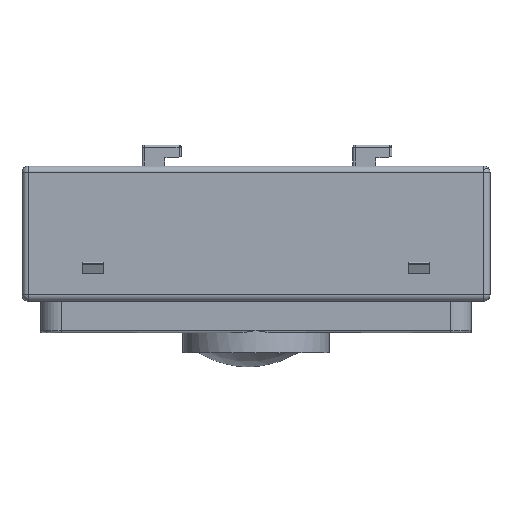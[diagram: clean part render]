
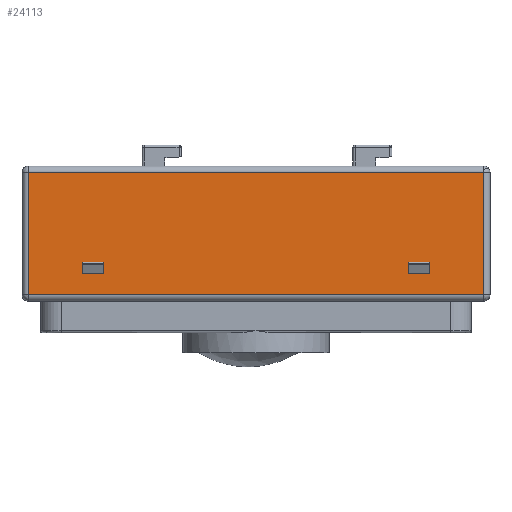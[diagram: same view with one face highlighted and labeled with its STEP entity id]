
A CAD part, top view. The second image highlights one B-rep face of the part: STEP entity #24113.
In plain terms, the highlighted planar face has unit normal (0, 0, 1).
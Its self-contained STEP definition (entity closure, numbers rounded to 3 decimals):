
#13570=DIRECTION('',(0.,1.,0.));
#13571=VECTOR('',#13570,11.6);
#13572=CARTESIAN_POINT('',(-21.6,-12.2,8.2));
#13573=LINE('',#13572,#13571);
#13928=DIRECTION('',(0.,-1.,0.));
#13929=VECTOR('',#13928,11.6);
#13930=CARTESIAN_POINT('',(21.6,-0.6,8.2));
#13931=LINE('',#13930,#13929);
#13966=DIRECTION('',(-1.,0.,0.));
#13967=VECTOR('',#13966,43.2);
#13968=CARTESIAN_POINT('',(21.6,-12.2,8.2));
#13969=LINE('',#13968,#13967);
#13980=DIRECTION('',(1.,0.,0.));
#13981=VECTOR('',#13980,2.);
#13982=CARTESIAN_POINT('',(14.5,-9.1,8.2));
#13983=LINE('',#13982,#13981);
#13987=DIRECTION('',(0.,1.,0.));
#13988=VECTOR('',#13987,1.1);
#13989=CARTESIAN_POINT('',(14.5,-10.2,8.2));
#13990=LINE('',#13989,#13988);
#13994=DIRECTION('',(1.,0.,0.));
#13995=VECTOR('',#13994,2.);
#13996=CARTESIAN_POINT('',(-16.5,-9.1,8.2));
#13997=LINE('',#13996,#13995);
#14001=DIRECTION('',(0.,1.,0.));
#14002=VECTOR('',#14001,1.1);
#14003=CARTESIAN_POINT('',(-16.5,-10.2,8.2));
#14004=LINE('',#14003,#14002);
#14015=DIRECTION('',(1.,0.,0.));
#14016=VECTOR('',#14015,43.2);
#14017=CARTESIAN_POINT('',(-21.6,-0.6,8.2));
#14018=LINE('',#14017,#14016);
#15522=DIRECTION('',(0.,1.,0.));
#15523=VECTOR('',#15522,1.1);
#15524=CARTESIAN_POINT('',(16.5,-10.2,8.2));
#15525=LINE('',#15524,#15523);
#15571=DIRECTION('',(1.,0.,0.));
#15572=VECTOR('',#15571,2.);
#15573=CARTESIAN_POINT('',(14.5,-10.2,8.2));
#15574=LINE('',#15573,#15572);
#15615=DIRECTION('',(0.,1.,0.));
#15616=VECTOR('',#15615,1.1);
#15617=CARTESIAN_POINT('',(-14.5,-10.2,8.2));
#15618=LINE('',#15617,#15616);
#15664=DIRECTION('',(1.,0.,0.));
#15665=VECTOR('',#15664,2.);
#15666=CARTESIAN_POINT('',(-16.5,-10.2,8.2));
#15667=LINE('',#15666,#15665);
#17406=CARTESIAN_POINT('',(-21.6,-0.6,8.2));
#17407=VERTEX_POINT('',#17406);
#17414=CARTESIAN_POINT('',(-21.6,-12.2,8.2));
#17415=VERTEX_POINT('',#17414);
#17420=CARTESIAN_POINT('',(21.6,-12.2,8.2));
#17421=VERTEX_POINT('',#17420);
#17424=CARTESIAN_POINT('',(21.6,-0.6,8.2));
#17425=VERTEX_POINT('',#17424);
#17426=CARTESIAN_POINT('',(16.5,-10.2,8.2));
#17427=CARTESIAN_POINT('',(16.5,-9.1,8.2));
#17428=VERTEX_POINT('',#17426);
#17429=VERTEX_POINT('',#17427);
#17430=CARTESIAN_POINT('',(14.5,-10.2,8.2));
#17431=VERTEX_POINT('',#17430);
#17432=CARTESIAN_POINT('',(14.5,-9.1,8.2));
#17433=VERTEX_POINT('',#17432);
#17434=CARTESIAN_POINT('',(-14.5,-10.2,8.2));
#17435=CARTESIAN_POINT('',(-14.5,-9.1,8.2));
#17436=VERTEX_POINT('',#17434);
#17437=VERTEX_POINT('',#17435);
#17438=CARTESIAN_POINT('',(-16.5,-10.2,8.2));
#17439=VERTEX_POINT('',#17438);
#17440=CARTESIAN_POINT('',(-16.5,-9.1,8.2));
#17441=VERTEX_POINT('',#17440);
#24081=CARTESIAN_POINT('',(-22.2,0.,8.2));
#24082=DIRECTION('',(0.,0.,1.));
#24083=DIRECTION('',(1.,0.,0.));
#24084=AXIS2_PLACEMENT_3D('',#24081,#24082,#24083);
#24085=PLANE('',#24084);
#24086=ORIENTED_EDGE('',*,*,#24065,.T.);
#24087=ORIENTED_EDGE('',*,*,#23598,.T.);
#24089=ORIENTED_EDGE('',*,*,#24088,.T.);
#24090=ORIENTED_EDGE('',*,*,#24026,.T.);
#24091=EDGE_LOOP('',(#24086,#24087,#24089,#24090));
#24092=FACE_OUTER_BOUND('',#24091,.F.);
#24094=ORIENTED_EDGE('',*,*,#24093,.T.);
#24096=ORIENTED_EDGE('',*,*,#24095,.F.);
#24098=ORIENTED_EDGE('',*,*,#24097,.F.);
#24100=ORIENTED_EDGE('',*,*,#24099,.T.);
#24101=EDGE_LOOP('',(#24094,#24096,#24098,#24100));
#24102=FACE_BOUND('',#24101,.F.);
#24104=ORIENTED_EDGE('',*,*,#24103,.T.);
#24106=ORIENTED_EDGE('',*,*,#24105,.F.);
#24108=ORIENTED_EDGE('',*,*,#24107,.F.);
#24110=ORIENTED_EDGE('',*,*,#24109,.T.);
#24111=EDGE_LOOP('',(#24104,#24106,#24108,#24110));
#24112=FACE_BOUND('',#24111,.F.);
#23598=EDGE_CURVE('',#17415,#17407,#13573,.T.);
#24026=EDGE_CURVE('',#17425,#17421,#13931,.T.);
#24065=EDGE_CURVE('',#17421,#17415,#13969,.T.);
#24088=EDGE_CURVE('',#17407,#17425,#14018,.T.);
#24093=EDGE_CURVE('',#17428,#17429,#15525,.T.);
#24095=EDGE_CURVE('',#17433,#17429,#13983,.T.);
#24097=EDGE_CURVE('',#17431,#17433,#13990,.T.);
#24099=EDGE_CURVE('',#17431,#17428,#15574,.T.);
#24103=EDGE_CURVE('',#17436,#17437,#15618,.T.);
#24105=EDGE_CURVE('',#17441,#17437,#13997,.T.);
#24107=EDGE_CURVE('',#17439,#17441,#14004,.T.);
#24109=EDGE_CURVE('',#17439,#17436,#15667,.T.);
#24113=ADVANCED_FACE('',(#24092,#24102,#24112),#24085,.T.);
